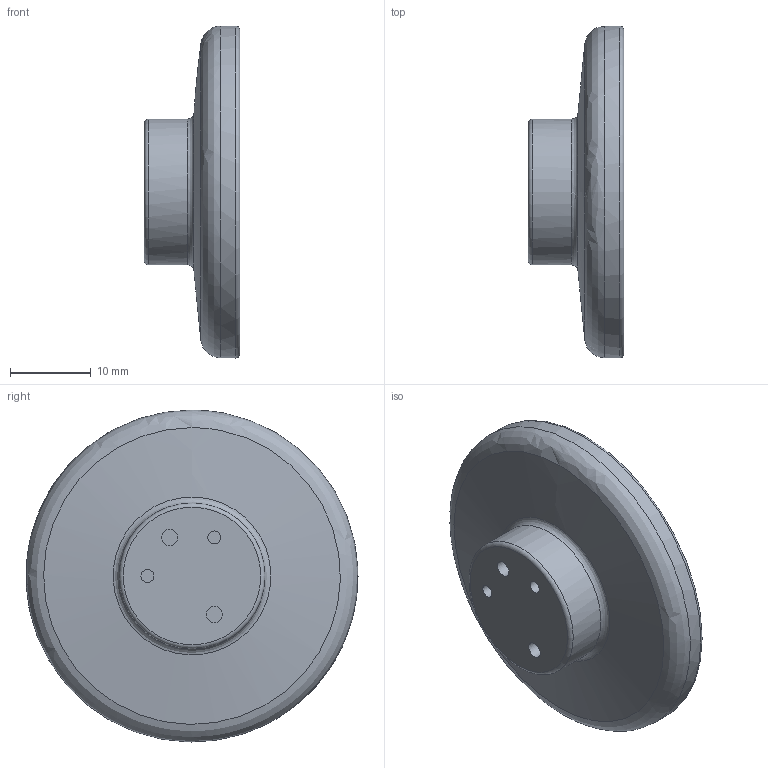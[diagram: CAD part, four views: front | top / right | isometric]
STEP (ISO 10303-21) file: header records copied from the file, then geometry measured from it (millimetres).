
FILE_DESCRIPTION(('Open CASCADE Model'),'2;1');
FILE_NAME('Open CASCADE Shape Model','2026-11-01T16:32:10',('Author'),( 'Open CASCADE'),'Open CASCADE STEP processor 8.0','build123d', 'Unknown');
FILE_SCHEMA(('AUTOMOTIVE_DESIGN { 1 0 10303 214 1 1 1 1 }'));
Length unit declared in the file: millimetre
Products named in the file (2): =>[0:1:1:2]; SOLID
Assembly tree (1 placements, depth 2):
  =>[0:1:1:2]
    SOLID
Bounding box: 11.8 x 41 x 41 mm (x, y, z)
Volume: 4909.3 mm3; surface area: 4494.1 mm2
Topology: 1 solids, 1 shells, 47 faces, 108 edges, 70 vertices
Faces by surface type: plane 27, cylinder 15, bspline 2, torus 2, sphere 1
Full cylindrical faces by diameter (mm): 1.6 x2, 2 x2, 18 x1, 20 x1, 24 x1, 38.6 x1, 41 x1
Entity records: 2964 total; most frequent: CARTESIAN_POINT 869, DIRECTION 360, ORIENTED_EDGE 216, PCURVE 216, DEFINITIONAL_REPRESENTATION 216, LINE 149, VECTOR 149, EDGE_CURVE 108
